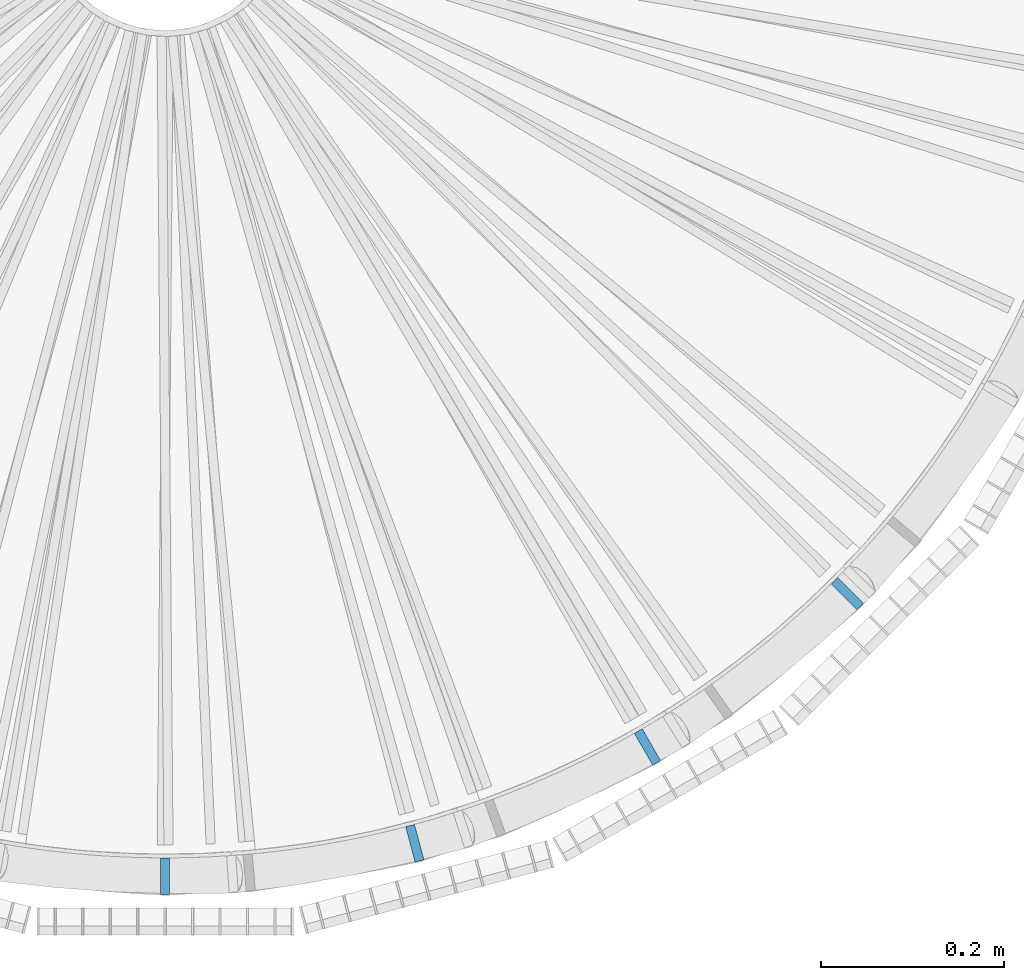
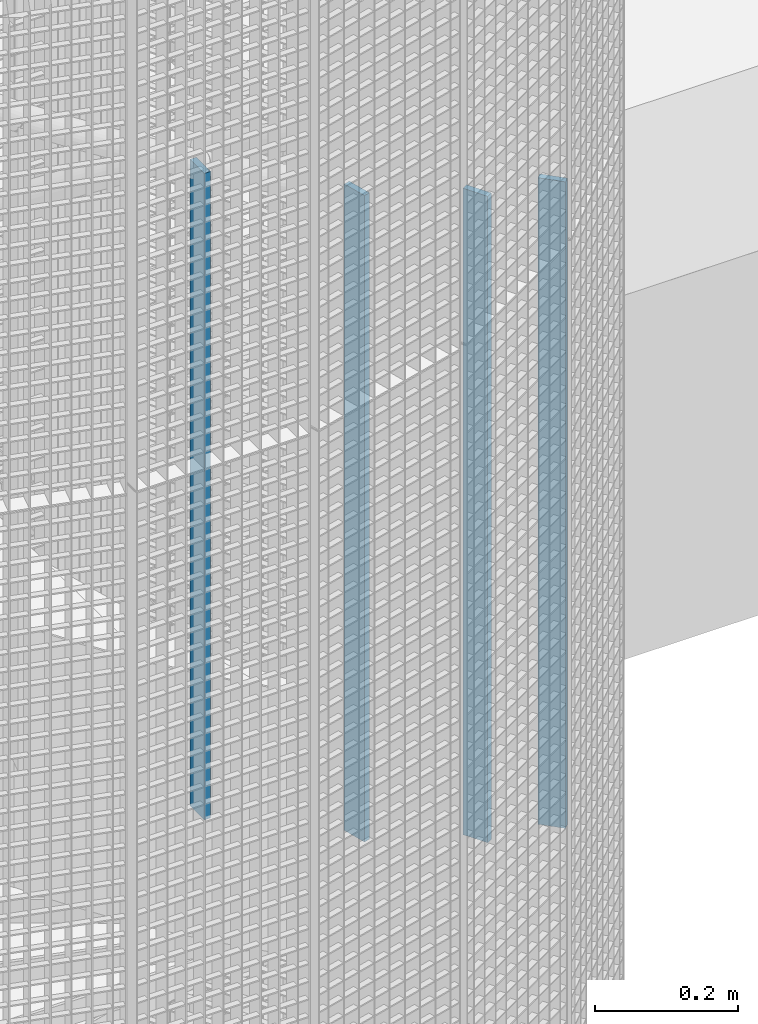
# One storey, part 42 of 1183: 4 columns, 4 elements without a shape of their own.
"""IFC2X3 building model written with IfcOpenShell, lengths in millimetres."""

from ifc_helpers import new_model, si_unit, frame, origin_with_axes, origin_2d_with_axis, place, context, subcontext, project, spatial, rectangle, extrude, material, type_object, element, aggregate, save


model = new_model("IFC2X3")

# Units and contexts
model_context = context("Model", 3, precision=1e-05, world=origin_with_axes())
body_context = subcontext(model_context, "Body", "Model", "MODEL_VIEW")
ifc_project = project(units=[si_unit("LENGTHUNIT", "METRE", prefix="MILLI"), si_unit("AREAUNIT", "SQUARE_METRE"), si_unit("VOLUMEUNIT", "CUBIC_METRE"), si_unit("MASSUNIT", "GRAM", prefix="KILO"), si_unit("TIMEUNIT", "SECOND"), si_unit("PLANEANGLEUNIT", "RADIAN"), si_unit("SOLIDANGLEUNIT", "STERADIAN"), si_unit("THERMODYNAMICTEMPERATUREUNIT", "DEGREE_CELSIUS"), si_unit("LUMINOUSINTENSITYUNIT", "LUMEN")], contexts=[model_context])

# Site, building, storey
site_placement = place(None, origin_with_axes())
site = spatial("IfcSite", under=ifc_project, at=site_placement, Name="Undefined", CompositionType="ELEMENT")
building_placement = place(site_placement, origin_with_axes())
building = spatial("IfcBuilding", under=site, at=building_placement, Name="Undefined", CompositionType="ELEMENT")
storey_placement = place(building_placement, origin_with_axes())
storey = spatial("IfcBuildingStorey", under=building, at=storey_placement, Name="Undefined", CompositionType="ELEMENT", Elevation=0.0)

# Assembly, column
assembly_1_placement = place(storey_placement, origin_with_axes())
assembly_1 = element("IfcElementAssembly", 1, at=assembly_1_placement, inside=storey, Name="MONTANT", AssemblyPlace="NOTDEFINED", PredefinedType="NOTDEFINED")
ifc_material = material(Name="STEEL/S235JR")
column_type = type_object("IfcColumnType", Name="PL10*40", PredefinedType="NOTDEFINED")
column_1_placement = place(assembly_1_placement, frame((21600.0, -1053.99999999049, 8368.24000000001), z_axis=(0.0, 0.0, 1.0), x_axis=(0.0, 1.0, 0.0)))
column_1 = element("IfcColumn", 2, at=column_1_placement, type_object=column_type, material=ifc_material, Name="MONTANT", context=body_context, shape_type="SweptSolid", body=[
    extrude(rectangle(XDim=10.0, YDim=40.0, at=origin_2d_with_axis()), frame((0.0, 0.0, 1100.0), z_axis=(0.0, 0.0, -1.0), x_axis=(0.0, 1.0, 0.0)), (0.0, 0.0, 1.0), 1100.0),
])
aggregate(assembly_1, [column_1])

assembly_2_placement = place(storey_placement, origin_with_axes())
assembly_2 = element("IfcElementAssembly", 3, at=assembly_2_placement, inside=storey, Name="MONTANT", AssemblyPlace="NOTDEFINED", PredefinedType="NOTDEFINED")
column_2_placement = place(assembly_2_placement, frame((21872.7952735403, -1018.08582091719, 8211.72), z_axis=(0.0, 0.0, 1.0), x_axis=(-0.258819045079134, 0.965925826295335, 0.0)))
column_2 = element("IfcColumn", 4, at=column_2_placement, type_object=column_type, material=ifc_material, Name="MONTANT", context=body_context, shape_type="SweptSolid", body=[
    extrude(rectangle(XDim=10.0, YDim=40.0, at=origin_2d_with_axis()), frame((0.0, 0.0, 1100.0), z_axis=(0.0, 0.0, -1.0), x_axis=(0.0, 1.0, 0.0)), (0.0, 0.0, 1.0), 1100.0),
])
aggregate(assembly_2, [column_2])

assembly_3_placement = place(storey_placement, origin_with_axes())
assembly_3 = element("IfcElementAssembly", 5, at=assembly_3_placement, inside=storey, Name="MONTANT", AssemblyPlace="NOTDEFINED", PredefinedType="NOTDEFINED")
column_3_placement = place(assembly_3_placement, frame((22345.2905473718, -745.290547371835, 7898.68), z_axis=(0.0, 0.0, 1.0), x_axis=(-0.707106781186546, 0.707106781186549, 0.0)))
column_3 = element("IfcColumn", 6, at=column_3_placement, type_object=column_type, material=ifc_material, Name="MONTANT", context=body_context, shape_type="SweptSolid", body=[
    extrude(rectangle(XDim=10.0, YDim=40.0, at=origin_2d_with_axis()), frame((0.0, 0.0, 1100.0), z_axis=(0.0, 0.0, -1.0), x_axis=(0.0, 1.0, 0.0)), (0.0, 0.0, 1.0), 1100.0),
])
aggregate(assembly_3, [column_3])

assembly_4_placement = place(storey_placement, origin_with_axes())
assembly_4 = element("IfcElementAssembly", 7, at=assembly_4_placement, inside=storey, Name="MONTANT", AssemblyPlace="NOTDEFINED", PredefinedType="NOTDEFINED")
column_4_placement = place(assembly_4_placement, frame((22127.0000000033, -912.790775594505, 8055.2), z_axis=(0.0, 0.0, 1.0), x_axis=(-0.49999999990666, 0.866025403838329, 0.0)))
column_4 = element("IfcColumn", 8, at=column_4_placement, type_object=column_type, material=ifc_material, Name="MONTANT", context=body_context, shape_type="SweptSolid", body=[
    extrude(rectangle(XDim=10.0, YDim=40.0, at=origin_2d_with_axis()), frame((0.0, 0.0, 1100.0), z_axis=(0.0, 0.0, -1.0), x_axis=(0.0, 1.0, 0.0)), (0.0, 0.0, 1.0), 1100.0),
])
aggregate(assembly_4, [column_4])

save(model, "model.ifc")
